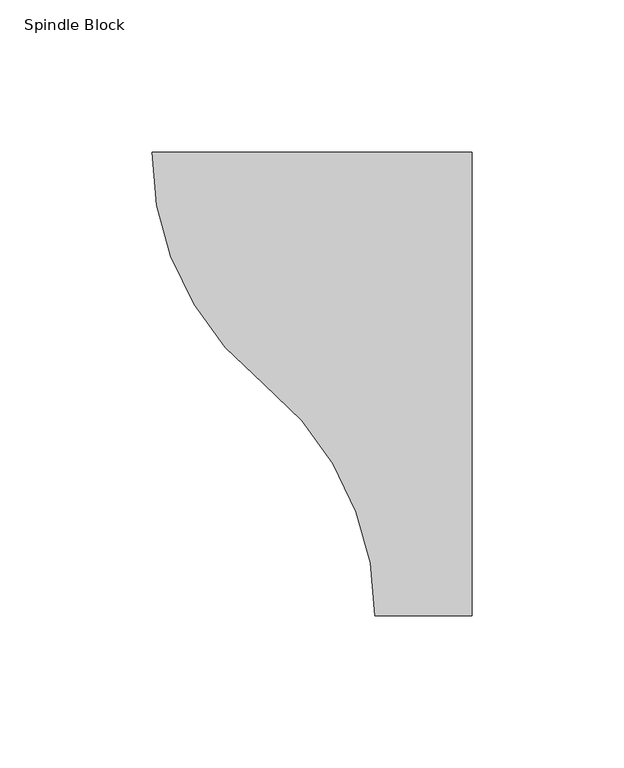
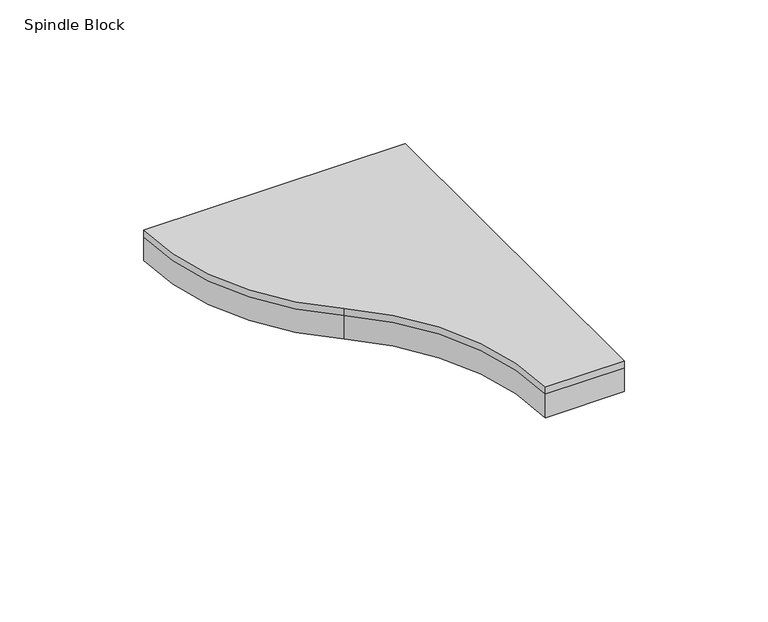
"""IFC4 building model written with IfcOpenShell, lengths in millimetres: proxy geometry, FilzFelt_Spindle_Block : Spindle Block."""

from ifc_helpers import new_model, si_unit, point, frame, frame_2d, origin, origin_with_axes, place, context, project, spatial, polyline, circle_curve, trimmed, segment, composite_curve, outline, extrude, source, transform, mapped, element, save


def spindle_block_4f026df0(model_context):
    return source(origin(), model_context, "Body", "SweptSolid", [
        extrude(outline(composite_curve([segment(polyline([(15.9204999, -152.5), (-15.9204999, -152.5)]), True, "CONTINUOUS"), segment(trimmed(circle_curve(frame_2d((-113.4981354, -152.5)), 97.5776355), [point((-15.9204999, -152.5))], [point((-52.6102676, -76.25))], True, "CARTESIAN"), True, "CONTINUOUS"), segment(trimmed(circle_curve(frame_2d((8.2776003, 0.0)), 97.5776355), [point((-52.6102676, -76.25))], [point((-89.3000352, 0.0))], False, "CARTESIAN"), True, "CONTINUOUS"), segment(polyline([(-89.3000352, 0.0), (15.9204999, 0.0), (15.9204999, -152.5)]), True, "CONTINUOUS")], self_intersect=False)), frame((0.0, 0.0, 10.0210937), z_axis=(0.0, 0.0, 1.0), x_axis=(1.0, 0.0, 0.0)), (0.0, 0.0, 1.0), 2.9765625),
        extrude(outline(composite_curve([segment(polyline([(15.9204999, -152.5), (-15.9204999, -152.5)]), True, "CONTINUOUS"), segment(trimmed(circle_curve(frame_2d((-113.4981354, -152.5)), 97.5776355), [point((-15.9204999, -152.5))], [point((-52.6102676, -76.25))], True, "CARTESIAN"), True, "CONTINUOUS"), segment(trimmed(circle_curve(frame_2d((8.2776003, 0.0)), 97.5776355), [point((-52.6102676, -76.25))], [point((-89.3000352, 0.0))], False, "CARTESIAN"), True, "CONTINUOUS"), segment(polyline([(-89.3000352, 0.0), (15.9204999, 0.0), (15.9204999, -152.5)]), True, "CONTINUOUS")], self_intersect=False)), origin_with_axes(), (0.0, 0.0, 1.0), 10.0210938),
    ])


if __name__ == "__main__":
    model = new_model("IFC4")
    model_context = context("Model", 3, world=origin())
    ifc_project = project(units=[si_unit("LENGTHUNIT", "METRE", prefix="MILLI")], contexts=[model_context])
    site = spatial("IfcSite", under=ifc_project)
    building = spatial("IfcBuilding", under=site)
    placement = place(None, origin())
    spindle_block_shape = spindle_block_4f026df0(model_context)
    element("IfcBuildingElementProxy", 1, Name="FilzFelt_Spindle_Block : Spindle Block", ObjectType="FilzFelt_Spindle_Block : Spindle Block", at=placement, inside=building, context=model_context, shape_type="MappedRepresentation", body=[
        mapped(spindle_block_shape, transform((0.0, 0.0, 0.0), x_axis=(1.0, 0.0, 0.0), y_axis=(0.0, 1.0, 0.0), z_axis=(0.0, 0.0, 1.0))),
    ])
    save(model, "model.ifc")
